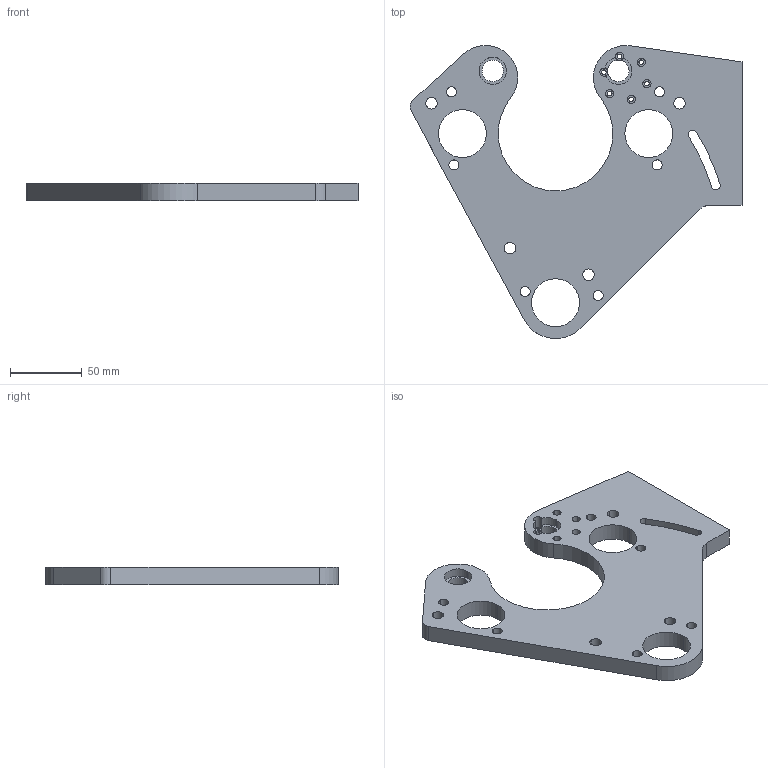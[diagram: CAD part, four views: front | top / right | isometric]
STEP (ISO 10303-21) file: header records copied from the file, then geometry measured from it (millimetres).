
FILE_DESCRIPTION(/* description */ ('VariCAD 2010-3.03 AP-214'),/* implementation_level */ '2;1');
FILE_NAME(/* name */ '0353-22-02',/* time_stamp */ '2011-06-28T18:15:36-06:00',/* author */ (''),/* organization */ (''),/* preprocessor_version */ 'ST-DEVELOPER v12',/* originating_system */ 'VariCAD 2010-3.03; kernel version (20100102)',/* authorisation */ '');
FILE_SCHEMA (('AUTOMOTIVE_DESIGN'));
Length unit declared in the file: millimetre
Products named in the file (1): Part
Bounding box: 231.49 x 204.32 x 12 mm (x, y, z)
Volume: 173245.9 mm3; surface area: 78802.4 mm2
Topology: 4 solids, 4 shells, 249 faces, 636 edges, 420 vertices
Faces by surface type: cylinder 176, plane 67, cone 6
Entity records: 9619 total; most frequent: DIRECTION 1504, CARTESIAN_POINT 1310, ORIENTED_EDGE 1272, EDGE_CURVE 636, AXIS2_PLACEMENT_3D 614, VERTEX_POINT 420, CIRCLE 360, EDGE_LOOP 324
